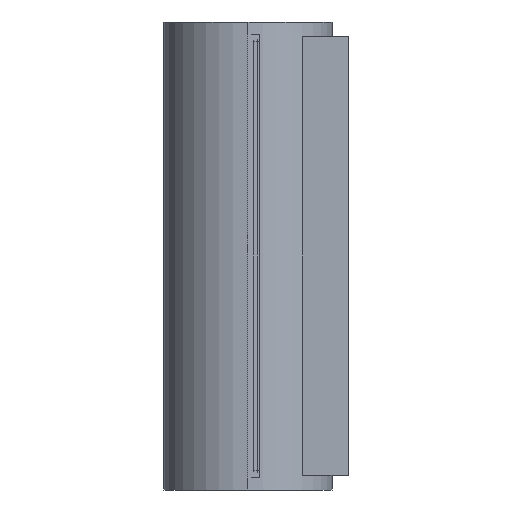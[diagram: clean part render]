
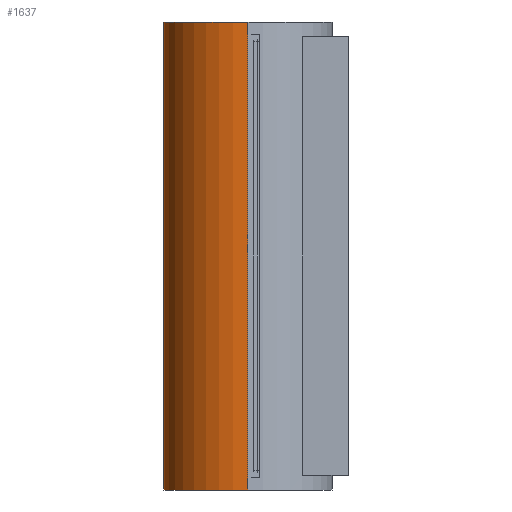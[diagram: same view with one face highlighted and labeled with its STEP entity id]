
A CAD part, left-side view. The second image highlights one B-rep face of the part: STEP entity #1637.
In plain terms, the highlighted cylindrical face has radius 25.2 mm (diameter 50.4 mm), a partial arc.
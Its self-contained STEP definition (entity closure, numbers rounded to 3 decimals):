
#44 = ORIENTED_EDGE ( 'NONE', *, *, #5889, .F. ) ;
#54 = VERTEX_POINT ( 'NONE', #14827 ) ;
#305 = EDGE_CURVE ( 'NONE', #54, #5837, #10837, .T. ) ;
#353 = VERTEX_POINT ( 'NONE', #11972 ) ;
#357 = CARTESIAN_POINT ( 'NONE',  ( -84.3, 25.2, 70. ) ) ;
#575 = VECTOR ( 'NONE', #7636, 1000. ) ;
#942 = VERTEX_POINT ( 'NONE', #357 ) ;
#1193 = CARTESIAN_POINT ( 'NONE',  ( -84.3, 0., -70. ) ) ;
#1249 = DIRECTION ( 'NONE',  ( 0., 0., 1. ) ) ;
#1294 = FACE_OUTER_BOUND ( 'NONE', #8284, .T. ) ;
#1523 = DIRECTION ( 'NONE',  ( 0., 0., 1. ) ) ;
#1531 = EDGE_CURVE ( 'NONE', #4932, #6742, #13923, .T. ) ;
#1544 = VECTOR ( 'NONE', #12427, 1000. ) ;
#1637 = ADVANCED_FACE ( 'NONE', ( #1294 ), #15214, .T. ) ;
#1646 = CARTESIAN_POINT ( 'NONE',  ( -84.7, 25.197, -70. ) ) ;
#1651 = EDGE_CURVE ( 'NONE', #8599, #54, #6120, .T. ) ;
#1883 = ORIENTED_EDGE ( 'NONE', *, *, #1651, .T. ) ;
#2197 = CARTESIAN_POINT ( 'NONE',  ( -84.7, 25.197, -59.8 ) ) ;
#2214 = DIRECTION ( 'NONE',  ( 0., 0., -1. ) ) ;
#2921 = CARTESIAN_POINT ( 'NONE',  ( -84.3, 25.2, 59.8 ) ) ;
#3582 = CIRCLE ( 'NONE', #11022, 25.2 ) ;
#3701 = AXIS2_PLACEMENT_3D ( 'NONE', #9360, #2214, #10567 ) ;
#3743 = LINE ( 'NONE', #1646, #575 ) ;
#4115 = VECTOR ( 'NONE', #8406, 1000. ) ;
#4321 = CARTESIAN_POINT ( 'NONE',  ( -84.3, 0., 70. ) ) ;
#4430 = VERTEX_POINT ( 'NONE', #2197 ) ;
#4789 = CARTESIAN_POINT ( 'NONE',  ( -109.5, 0., -70. ) ) ;
#4932 = VERTEX_POINT ( 'NONE', #10419 ) ;
#5006 = EDGE_CURVE ( 'NONE', #942, #5837, #12860, .T. ) ;
#5229 = CARTESIAN_POINT ( 'NONE',  ( -84.3, 25.2, -70. ) ) ;
#5518 = DIRECTION ( 'NONE',  ( 1., 0., 0. ) ) ;
#5837 = VERTEX_POINT ( 'NONE', #9777 ) ;
#5889 = EDGE_CURVE ( 'NONE', #353, #4430, #3582, .T. ) ;
#6120 = CIRCLE ( 'NONE', #13155, 25.2 ) ;
#6623 = ORIENTED_EDGE ( 'NONE', *, *, #9754, .F. ) ;
#6742 = VERTEX_POINT ( 'NONE', #2921 ) ;
#7117 = DIRECTION ( 'NONE',  ( 1., 0., 0. ) ) ;
#7636 = DIRECTION ( 'NONE',  ( 0., 0., 1. ) ) ;
#8284 = EDGE_LOOP ( 'NONE', ( #44, #14022, #1883, #11917, #11763, #6623, #13571, #14843 ) ) ;
#8377 = CARTESIAN_POINT ( 'NONE',  ( -84.3, 0., -70. ) ) ;
#8406 = DIRECTION ( 'NONE',  ( 0., 0., 1. ) ) ;
#8599 = VERTEX_POINT ( 'NONE', #10238 ) ;
#8671 = CARTESIAN_POINT ( 'NONE',  ( -84.3, 0., -59.8 ) ) ;
#9360 = CARTESIAN_POINT ( 'NONE',  ( -84.3, 0., 59.8 ) ) ;
#9529 = AXIS2_PLACEMENT_3D ( 'NONE', #4321, #12652, #5518 ) ;
#9590 = DIRECTION ( 'NONE',  ( 1., 0., 0. ) ) ;
#9722 = EDGE_CURVE ( 'NONE', #8599, #353, #14169, .T. ) ;
#9754 = EDGE_CURVE ( 'NONE', #6742, #942, #10672, .T. ) ;
#9777 = CARTESIAN_POINT ( 'NONE',  ( -109.5, 0., 70. ) ) ;
#9880 = DIRECTION ( 'NONE',  ( -1., 0., 0. ) ) ;
#10238 = CARTESIAN_POINT ( 'NONE',  ( -84.3, 25.2, -70. ) ) ;
#10348 = EDGE_CURVE ( 'NONE', #4430, #4932, #3743, .T. ) ;
#10419 = CARTESIAN_POINT ( 'NONE',  ( -84.7, 25.197, 59.8 ) ) ;
#10567 = DIRECTION ( 'NONE',  ( 1., 0., 0. ) ) ;
#10672 = LINE ( 'NONE', #14751, #1544 ) ;
#10837 = LINE ( 'NONE', #4789, #4115 ) ;
#11022 = AXIS2_PLACEMENT_3D ( 'NONE', #8671, #1523, #9880 ) ;
#11763 = ORIENTED_EDGE ( 'NONE', *, *, #5006, .F. ) ;
#11886 = DIRECTION ( 'NONE',  ( 0., 0., 1. ) ) ;
#11917 = ORIENTED_EDGE ( 'NONE', *, *, #305, .T. ) ;
#11972 = CARTESIAN_POINT ( 'NONE',  ( -84.3, 25.2, -59.8 ) ) ;
#12427 = DIRECTION ( 'NONE',  ( 0., 0., 1. ) ) ;
#12652 = DIRECTION ( 'NONE',  ( 0., 0., 1. ) ) ;
#12860 = CIRCLE ( 'NONE', #9529, 25.2 ) ;
#13155 = AXIS2_PLACEMENT_3D ( 'NONE', #8377, #1249, #9590 ) ;
#13560 = DIRECTION ( 'NONE',  ( 0., 0., 1. ) ) ;
#13571 = ORIENTED_EDGE ( 'NONE', *, *, #1531, .F. ) ;
#13805 = VECTOR ( 'NONE', #13560, 1000. ) ;
#13923 = CIRCLE ( 'NONE', #3701, 25.2 ) ;
#13932 = AXIS2_PLACEMENT_3D ( 'NONE', #1193, #11886, #7117 ) ;
#14022 = ORIENTED_EDGE ( 'NONE', *, *, #9722, .F. ) ;
#14169 = LINE ( 'NONE', #5229, #13805 ) ;
#14751 = CARTESIAN_POINT ( 'NONE',  ( -84.3, 25.2, -70. ) ) ;
#14827 = CARTESIAN_POINT ( 'NONE',  ( -109.5, 0., -70. ) ) ;
#14843 = ORIENTED_EDGE ( 'NONE', *, *, #10348, .F. ) ;
#15214 = CYLINDRICAL_SURFACE ( 'NONE', #13932, 25.2 ) ;
